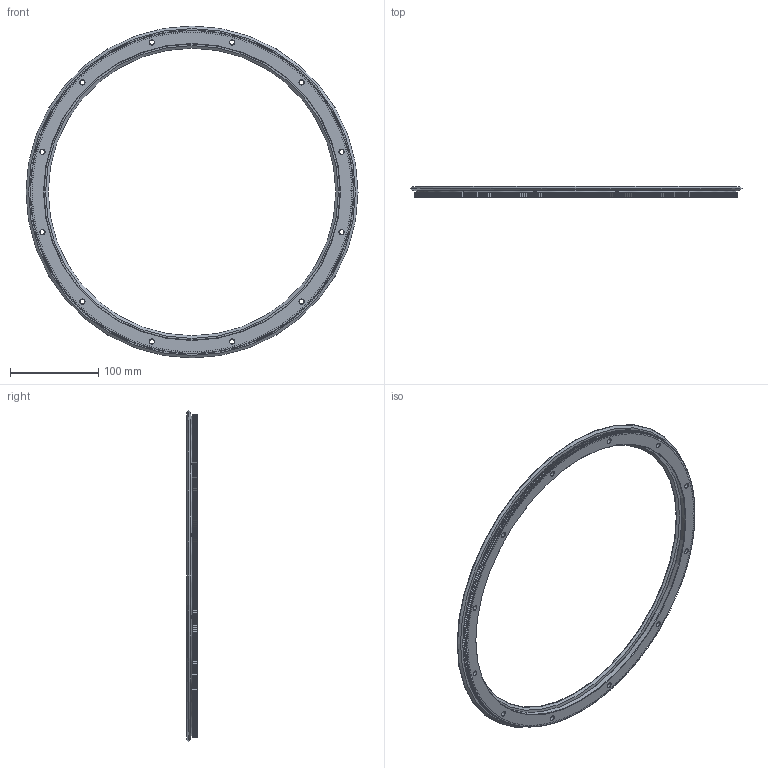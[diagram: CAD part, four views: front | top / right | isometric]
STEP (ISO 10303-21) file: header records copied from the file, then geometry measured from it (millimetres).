
FILE_DESCRIPTION( ( 'STEP AP203' ), '1' );
FILE_NAME( 'p:/temp/worker_26/temp/exporttempdir_4444_3_jRE9E/format_0/R25 351 R360 P.stp', '2021-07-19T05:40:46', ( 'License CC BY-ND 4.0' ), ( 'CADENAS' ), ' ', 'PARTsolutions', ' ' );
FILE_SCHEMA( ( 'CONFIG_CONTROL_DESIGN' ) );
Length unit declared in the file: millimetre
Products named in the file (1): _R25 351 R360 P
Bounding box: 376.19 x 12.25 x 376.19 mm (x, y, z)
Volume: 222192.9 mm3; surface area: 94361.6 mm2
Topology: 1 solids, 1 shells, 2799 faces, 7417 edges, 4635 vertices
Faces by surface type: plane 1841, cylinder 483, cone 473, torus 2
Full cylindrical faces by diameter (mm): 5.5 x12, 9 x12, 335.6 x1, 340 x1, 362.4 x1
Entity records: 86746 total; most frequent: CARTESIAN_POINT 17541, ORIENTED_EDGE 14740, DIRECTION 14412, EDGE_CURVE 7370, AXIS2_PLACEMENT_3D 5154, VERTEX_POINT 4635, LINE 4104, VECTOR 4104
